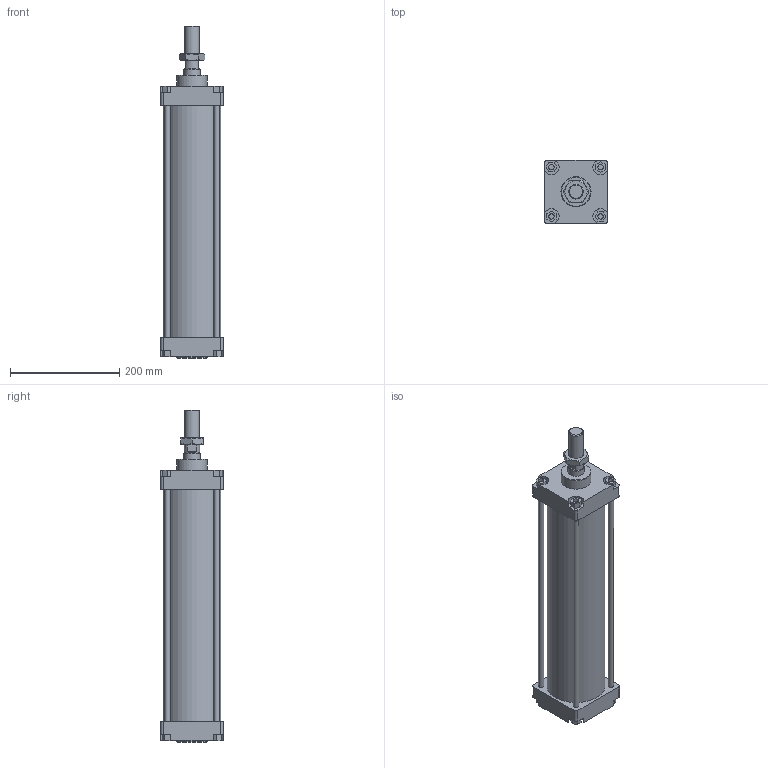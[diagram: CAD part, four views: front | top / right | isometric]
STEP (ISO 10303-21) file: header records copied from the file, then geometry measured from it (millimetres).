
FILE_DESCRIPTION(/* description */ (''),/* implementation_level */ '2;1');
FILE_NAME(/* name */ 'I:\Area Tecnica\Disegni\VARIE-3D\Componenti\CSP\Ø100\130#_100_####_###\1303_100_0350_01A.stp',/* time_stamp */ '2016-11-24T14:04:56+01:00',/* author */ ('Maniean1'),/* organization */ ('Pneumax S.p.A.'),/* preprocessor_version */ 'ST-DEVELOPER v15.2',/* originating_system */ 'Autodesk Inventor 2014',/* authorisation */ '');
FILE_SCHEMA (('AUTOMOTIVE_DESIGN { 1 0 10303 214 3 1 1 }'));
Length unit declared in the file: millimetre
Products named in the file (6): C_130#_100_0350; Testata anteriore_100; Testata posteriore_100; S_1303_100_0350_01A; 1300_100_18F; 1303_100_0350_01A
Bounding box: 115 x 115 x 607 mm (x, y, z)
Volume: 2331980.7 mm3; surface area: 532382.7 mm2
Topology: 9 solids, 9 shells, 162 faces, 380 edges, 249 vertices
Faces by surface type: plane 105, cylinder 42, cone 15
Full cylindrical faces by diameter (mm): 10 x12, 19 x2, 21.8 x1, 24.835 x1, 27 x1, 28 x1, 30 x3, 55 x2, 100 x2, 106 x1
Entity records: 4530 total; most frequent: CARTESIAN_POINT 785, DIRECTION 764, ORIENTED_EDGE 672, EDGE_CURVE 336, AXIS2_PLACEMENT_3D 271, VERTEX_POINT 244, EDGE_LOOP 236, LINE 222
